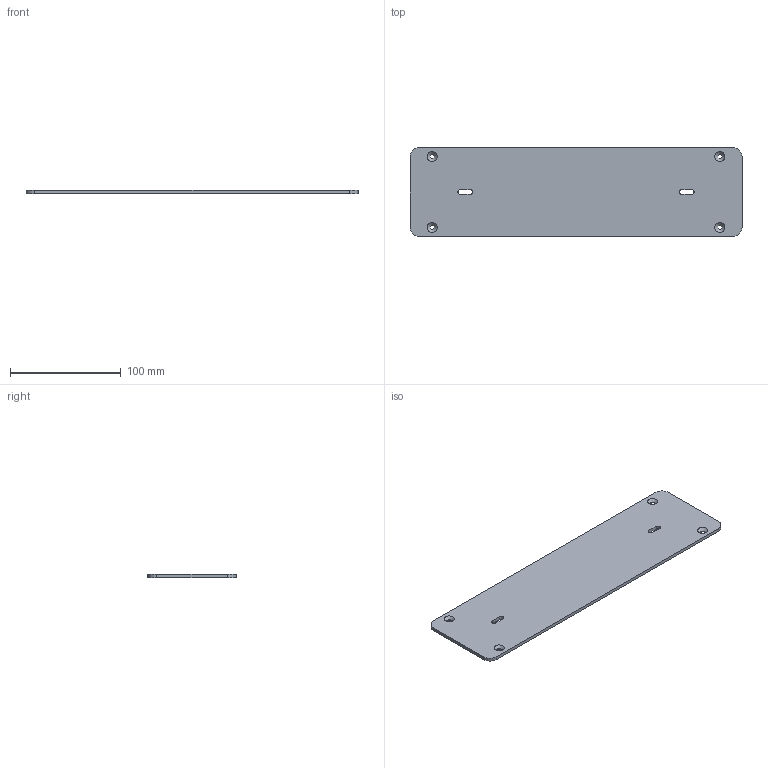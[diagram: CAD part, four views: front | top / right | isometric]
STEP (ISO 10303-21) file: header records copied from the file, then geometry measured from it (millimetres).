
FILE_DESCRIPTION(/* description */ ('Unknown'),/* implementation_level */ '2;1');
FILE_NAME(/* name */ '98772',/* time_stamp */ '2023-02-07T08:30:18-05:00',/* author */ ('Unknown'),/* organization */ ('Unknown'),/* preprocessor_version */ 'ST-DEVELOPER v18.1',/* originating_system */ 'Solid Edge',/* authorisation */ 'Unknown');
FILE_SCHEMA (('TECHNICAL_DATA_PACKAGING','AUTOMOTIVE_DESIGN {1 0 10303 214 3 1 1}'));
Length unit declared in the file: millimetre
Products named in the file (1): LED-PIA043
Bounding box: 300 x 80 x 3 mm (x, y, z)
Volume: 71102.2 mm3; surface area: 50098.9 mm2
Topology: 1 solids, 1 shells, 26 faces, 72 edges, 48 vertices
Faces by surface type: cylinder 12, plane 10, cone 4
Full cylindrical faces by diameter (mm): 4.2 x4
Entity records: 822 total; most frequent: DIRECTION 142, CARTESIAN_POINT 131, ORIENTED_EDGE 120, EDGE_CURVE 60, AXIS2_PLACEMENT_3D 55, EDGE_LOOP 46, FACE_BOUND 46, VERTEX_POINT 44
